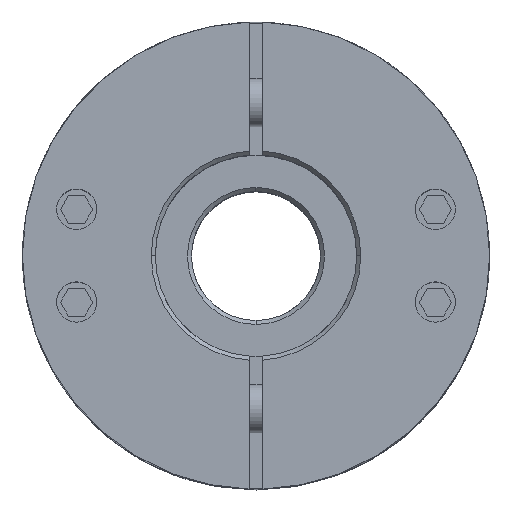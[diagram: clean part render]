
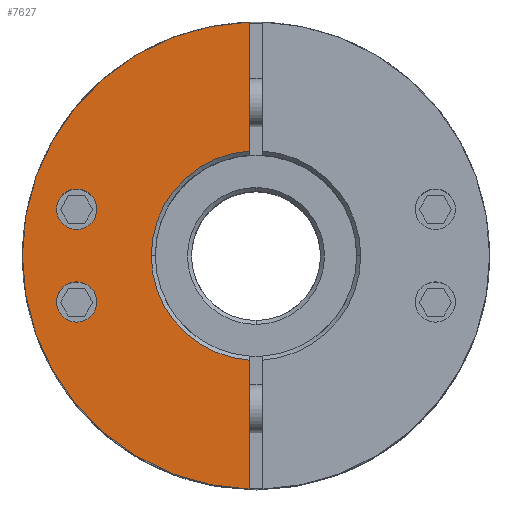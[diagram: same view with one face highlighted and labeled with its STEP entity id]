
A CAD part, top view. The second image highlights one B-rep face of the part: STEP entity #7627.
In plain terms, the highlighted planar face has unit normal (0, 0, 1).
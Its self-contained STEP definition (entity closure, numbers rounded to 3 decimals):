
#4241=CARTESIAN_POINT('',(-19.767,-5.759,27.125));
#4242=VERTEX_POINT('',#4241);
#4251=CARTESIAN_POINT('',(-24.767,-5.759,27.125));
#4252=VERTEX_POINT('',#4251);
#4253=CARTESIAN_POINT('',(-22.267,-5.759,27.125));
#4254=DIRECTION('',(0.0,0.0,-1.0));
#4255=DIRECTION('',(1.0,0.0,0.0));
#4256=AXIS2_PLACEMENT_3D('',#4253,#4254,#4255);
#4257=CIRCLE('',#4256,2.5);
#4258=EDGE_CURVE('',#4252,#4242,#4257,.T.);
#4367=CARTESIAN_POINT('',(-19.767,5.759,27.125));
#4368=VERTEX_POINT('',#4367);
#4377=CARTESIAN_POINT('',(-24.767,5.759,27.125));
#4378=VERTEX_POINT('',#4377);
#4379=CARTESIAN_POINT('',(-22.267,5.759,27.125));
#4380=DIRECTION('',(0.0,0.0,-1.0));
#4381=DIRECTION('',(1.0,0.0,0.0));
#4382=AXIS2_PLACEMENT_3D('',#4379,#4380,#4381);
#4383=CIRCLE('',#4382,2.5);
#4384=EDGE_CURVE('',#4378,#4368,#4383,.T.);
#4596=CARTESIAN_POINT('',(-29.0,0.,27.125));
#4597=VERTEX_POINT('',#4596);
#4604=CARTESIAN_POINT('',(-0.75,28.99,27.125));
#4605=VERTEX_POINT('',#4604);
#4606=CARTESIAN_POINT('',(0.0,0.0,27.125));
#4607=DIRECTION('',(0.0,0.0,-1.0));
#4608=DIRECTION('',(1.0,0.0,0.0));
#4609=AXIS2_PLACEMENT_3D('',#4606,#4607,#4608);
#4610=CIRCLE('',#4609,29.0);
#4611=EDGE_CURVE('',#4597,#4605,#4610,.T.);
#4958=CARTESIAN_POINT('',(-13.0,0.,27.125));
#4959=VERTEX_POINT('',#4958);
#4975=CARTESIAN_POINT('',(-0.75,12.978,27.125));
#4976=VERTEX_POINT('',#4975);
#4990=CARTESIAN_POINT('',(0.0,0.0,27.125));
#4991=DIRECTION('',(0.0,0.0,1.0));
#4992=DIRECTION('',(-1.0,0.0,0.0));
#4993=AXIS2_PLACEMENT_3D('',#4990,#4991,#4992);
#4994=CIRCLE('',#4993,13.0);
#4995=EDGE_CURVE('',#4976,#4959,#4994,.T.);
#7380=CARTESIAN_POINT('',(-0.75,-12.978,27.125));
#7381=VERTEX_POINT('',#7380);
#7382=CARTESIAN_POINT('',(0.0,0.0,27.125));
#7383=DIRECTION('',(0.0,0.0,1.0));
#7384=DIRECTION('',(-1.0,0.0,0.0));
#7385=AXIS2_PLACEMENT_3D('',#7382,#7383,#7384);
#7386=CIRCLE('',#7385,13.0);
#7387=EDGE_CURVE('',#4959,#7381,#7386,.T.);
#7420=CARTESIAN_POINT('',(-0.75,12.978,27.125));
#7421=DIRECTION('',(0.0,1.0,0.0));
#7422=VECTOR('',#7421,16.012);
#7423=LINE('',#7420,#7422);
#7424=EDGE_CURVE('',#4976,#4605,#7423,.T.);
#7534=CARTESIAN_POINT('',(-0.75,-28.99,27.125));
#7535=VERTEX_POINT('',#7534);
#7536=CARTESIAN_POINT('',(-0.75,-28.99,27.125));
#7537=DIRECTION('',(0.0,1.0,0.0));
#7538=VECTOR('',#7537,16.012);
#7539=LINE('',#7536,#7538);
#7540=EDGE_CURVE('',#7535,#7381,#7539,.T.);
#7588=CARTESIAN_POINT('',(2.636,0.,27.125));
#7589=DIRECTION('',(0.0,0.0,1.0));
#7590=DIRECTION('',(1.0,0.0,0.0));
#7591=AXIS2_PLACEMENT_3D('',#7588,#7589,#7590);
#7592=PLANE('',#7591);
#7593=ORIENTED_EDGE('',*,*,#4995,.F.);
#7594=ORIENTED_EDGE('',*,*,#7424,.T.);
#7595=ORIENTED_EDGE('',*,*,#4611,.F.);
#7596=CARTESIAN_POINT('',(0.0,0.0,27.125));
#7597=DIRECTION('',(0.0,0.0,-1.0));
#7598=DIRECTION('',(1.0,0.0,0.0));
#7599=AXIS2_PLACEMENT_3D('',#7596,#7597,#7598);
#7600=CIRCLE('',#7599,29.0);
#7601=EDGE_CURVE('',#7535,#4597,#7600,.T.);
#7602=ORIENTED_EDGE('',*,*,#7601,.F.);
#7603=ORIENTED_EDGE('',*,*,#7540,.T.);
#7604=ORIENTED_EDGE('',*,*,#7387,.F.);
#7605=EDGE_LOOP('',(#7593,#7594,#7595,#7602,#7603,#7604));
#7606=FACE_OUTER_BOUND('',#7605,.T.);
#7607=CARTESIAN_POINT('',(-22.267,-5.759,27.125));
#7608=DIRECTION('',(0.0,0.0,-1.0));
#7609=DIRECTION('',(1.0,0.0,0.0));
#7610=AXIS2_PLACEMENT_3D('',#7607,#7608,#7609);
#7611=CIRCLE('',#7610,2.5);
#7612=EDGE_CURVE('',#4242,#4252,#7611,.T.);
#7613=ORIENTED_EDGE('',*,*,#7612,.T.);
#7614=ORIENTED_EDGE('',*,*,#4258,.T.);
#7615=EDGE_LOOP('',(#7613,#7614));
#7616=FACE_BOUND('',#7615,.T.);
#7617=CARTESIAN_POINT('',(-22.267,5.759,27.125));
#7618=DIRECTION('',(0.0,0.0,-1.0));
#7619=DIRECTION('',(1.0,0.0,0.0));
#7620=AXIS2_PLACEMENT_3D('',#7617,#7618,#7619);
#7621=CIRCLE('',#7620,2.5);
#7622=EDGE_CURVE('',#4368,#4378,#7621,.T.);
#7623=ORIENTED_EDGE('',*,*,#7622,.T.);
#7624=ORIENTED_EDGE('',*,*,#4384,.T.);
#7625=EDGE_LOOP('',(#7623,#7624));
#7626=FACE_BOUND('',#7625,.T.);
#7627=ADVANCED_FACE('',(#7606,#7616,#7626),#7592,.T.);
